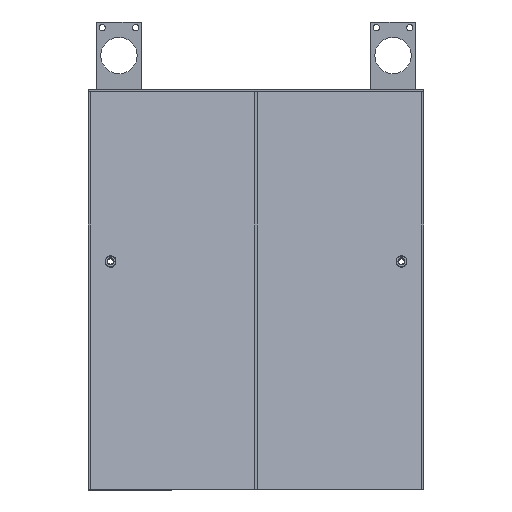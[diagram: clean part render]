
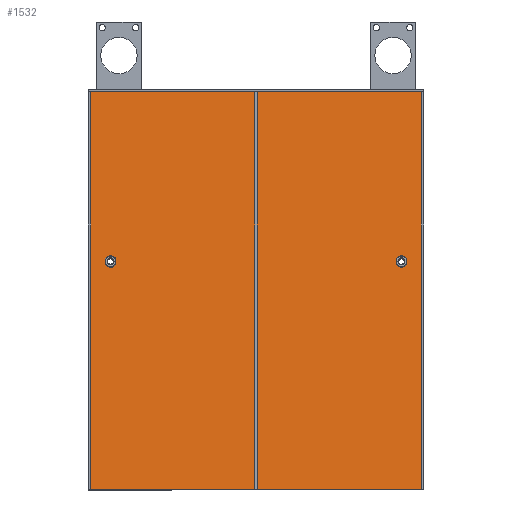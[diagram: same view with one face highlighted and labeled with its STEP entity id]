
A CAD part, front view. The second image highlights one B-rep face of the part: STEP entity #1532.
In plain terms, the highlighted planar face has unit normal (0, -0.995, 0.105) as drawn and (0, -1, 0) by its records, which use the part's own axes.
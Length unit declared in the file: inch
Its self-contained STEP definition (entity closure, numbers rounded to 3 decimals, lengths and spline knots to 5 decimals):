
#68 = EDGE_CURVE ( 'NONE', #2515, #1009, #1097, .T. ) ;
#85 = VECTOR ( 'NONE', #2171, 39.37008 ) ;
#181 = AXIS2_PLACEMENT_3D ( 'NONE', #1252, #1950, #1209 ) ;
#288 = CIRCLE ( 'NONE', #940, 0.34375 ) ;
#377 = CIRCLE ( 'NONE', #1273, 0.34375 ) ;
#511 = ORIENTED_EDGE ( 'NONE', *, *, #1907, .F. ) ;
#574 = EDGE_CURVE ( 'NONE', #945, #2107, #377, .T. ) ;
#596 = CARTESIAN_POINT ( 'NONE',  ( -2.79247, 0., -1.13079 ) ) ;
#640 = CARTESIAN_POINT ( 'NONE',  ( 27.20753, 0., -1.13079 ) ) ;
#717 = LINE ( 'NONE', #1493, #85 ) ;
#751 = ORIENTED_EDGE ( 'NONE', *, *, #574, .F. ) ;
#769 = PLANE ( 'NONE',  #2568 ) ;
#792 = DIRECTION ( 'NONE',  ( 0., 0., -1. ) ) ;
#840 = CARTESIAN_POINT ( 'NONE',  ( -0.79247, 0., 19.33796 ) ) ;
#889 = DIRECTION ( 'NONE',  ( 0., 0., -1. ) ) ;
#921 = EDGE_CURVE ( 'NONE', #2173, #1730, #717, .T. ) ;
#940 = AXIS2_PLACEMENT_3D ( 'NONE', #840, #2264, #889 ) ;
#945 = VERTEX_POINT ( 'NONE', #1679 ) ;
#962 = ORIENTED_EDGE ( 'NONE', *, *, #921, .F. ) ;
#998 = CARTESIAN_POINT ( 'NONE',  ( 27.20753, 0., 34.86921 ) ) ;
#1006 = EDGE_LOOP ( 'NONE', ( #1968, #511 ) ) ;
#1009 = VERTEX_POINT ( 'NONE', #596 ) ;
#1045 = ORIENTED_EDGE ( 'NONE', *, *, #1269, .F. ) ;
#1049 = EDGE_CURVE ( 'NONE', #1135, #1796, #288, .T. ) ;
#1097 = LINE ( 'NONE', #2076, #1275 ) ;
#1133 = CIRCLE ( 'NONE', #2910, 0.34375 ) ;
#1135 = VERTEX_POINT ( 'NONE', #2633 ) ;
#1149 = ORIENTED_EDGE ( 'NONE', *, *, #2534, .F. ) ;
#1160 = CARTESIAN_POINT ( 'NONE',  ( -2.79247, 0., 34.86921 ) ) ;
#1199 = DIRECTION ( 'NONE',  ( 0., 0., -1. ) ) ;
#1209 = DIRECTION ( 'NONE',  ( 0., 0., -1. ) ) ;
#1252 = CARTESIAN_POINT ( 'NONE',  ( -0.79247, 0., 19.33796 ) ) ;
#1269 = EDGE_CURVE ( 'NONE', #1730, #2515, #1724, .T. ) ;
#1273 = AXIS2_PLACEMENT_3D ( 'NONE', #2281, #2302, #1339 ) ;
#1275 = VECTOR ( 'NONE', #1314, 39.37008 ) ;
#1314 = DIRECTION ( 'NONE',  ( -1., 0., 0. ) ) ;
#1339 = DIRECTION ( 'NONE',  ( 0., 0., -1. ) ) ;
#1464 = DIRECTION ( 'NONE',  ( 0., -1., 0. ) ) ;
#1493 = CARTESIAN_POINT ( 'NONE',  ( -2.79247, 0., 34.86921 ) ) ;
#1511 = CARTESIAN_POINT ( 'NONE',  ( -2.79247, 0., -1.13079 ) ) ;
#1532 = ADVANCED_FACE ( 'NONE', ( #2225, #1721, #2942 ), #769, .T. ) ;
#1598 = DIRECTION ( 'NONE',  ( 0., 0., 1. ) ) ;
#1679 = CARTESIAN_POINT ( 'NONE',  ( 25.20753, 0., 19.68171 ) ) ;
#1721 = FACE_BOUND ( 'NONE', #2661, .T. ) ;
#1724 = LINE ( 'NONE', #998, #3016 ) ;
#1730 = VERTEX_POINT ( 'NONE', #2333 ) ;
#1731 = DIRECTION ( 'NONE',  ( 0., -1., 0. ) ) ;
#1796 = VERTEX_POINT ( 'NONE', #2367 ) ;
#1809 = EDGE_LOOP ( 'NONE', ( #1149, #2395, #1045, #962 ) ) ;
#1877 = EDGE_CURVE ( 'NONE', #2107, #945, #1133, .T. ) ;
#1907 = EDGE_CURVE ( 'NONE', #1796, #1135, #2245, .T. ) ;
#1938 = DIRECTION ( 'NONE',  ( 0., 0., -1. ) ) ;
#1950 = DIRECTION ( 'NONE',  ( 0., -1., 0. ) ) ;
#1964 = CARTESIAN_POINT ( 'NONE',  ( 25.20753, 0., 19.33796 ) ) ;
#1968 = ORIENTED_EDGE ( 'NONE', *, *, #1049, .F. ) ;
#2076 = CARTESIAN_POINT ( 'NONE',  ( -2.79247, 0., -1.13079 ) ) ;
#2107 = VERTEX_POINT ( 'NONE', #2968 ) ;
#2147 = VECTOR ( 'NONE', #1598, 39.37008 ) ;
#2171 = DIRECTION ( 'NONE',  ( 1., 0., 0. ) ) ;
#2173 = VERTEX_POINT ( 'NONE', #1160 ) ;
#2225 = FACE_BOUND ( 'NONE', #1006, .T. ) ;
#2245 = CIRCLE ( 'NONE', #181, 0.34375 ) ;
#2264 = DIRECTION ( 'NONE',  ( 0., -1., 0. ) ) ;
#2281 = CARTESIAN_POINT ( 'NONE',  ( 25.20753, 0., 19.33796 ) ) ;
#2302 = DIRECTION ( 'NONE',  ( 0., -1., 0. ) ) ;
#2333 = CARTESIAN_POINT ( 'NONE',  ( 27.20753, 0., 34.86921 ) ) ;
#2367 = CARTESIAN_POINT ( 'NONE',  ( -0.79247, 0., 18.99421 ) ) ;
#2395 = ORIENTED_EDGE ( 'NONE', *, *, #68, .F. ) ;
#2485 = CARTESIAN_POINT ( 'NONE',  ( -2.79247, 0., 34.86921 ) ) ;
#2515 = VERTEX_POINT ( 'NONE', #640 ) ;
#2534 = EDGE_CURVE ( 'NONE', #1009, #2173, #2549, .T. ) ;
#2549 = LINE ( 'NONE', #2485, #2147 ) ;
#2568 = AXIS2_PLACEMENT_3D ( 'NONE', #1511, #1464, #1199 ) ;
#2633 = CARTESIAN_POINT ( 'NONE',  ( -0.79247, 0., 19.68171 ) ) ;
#2661 = EDGE_LOOP ( 'NONE', ( #751, #3037 ) ) ;
#2910 = AXIS2_PLACEMENT_3D ( 'NONE', #1964, #1731, #1938 ) ;
#2942 = FACE_OUTER_BOUND ( 'NONE', #1809, .T. ) ;
#2968 = CARTESIAN_POINT ( 'NONE',  ( 25.20753, 0., 18.99421 ) ) ;
#3016 = VECTOR ( 'NONE', #792, 39.37008 ) ;
#3037 = ORIENTED_EDGE ( 'NONE', *, *, #1877, .F. ) ;
